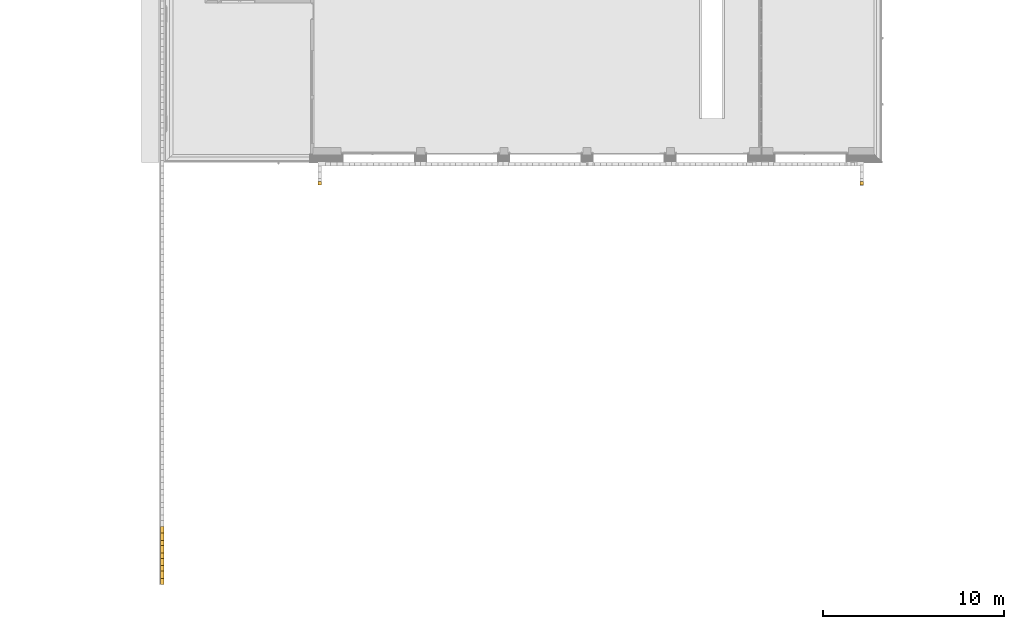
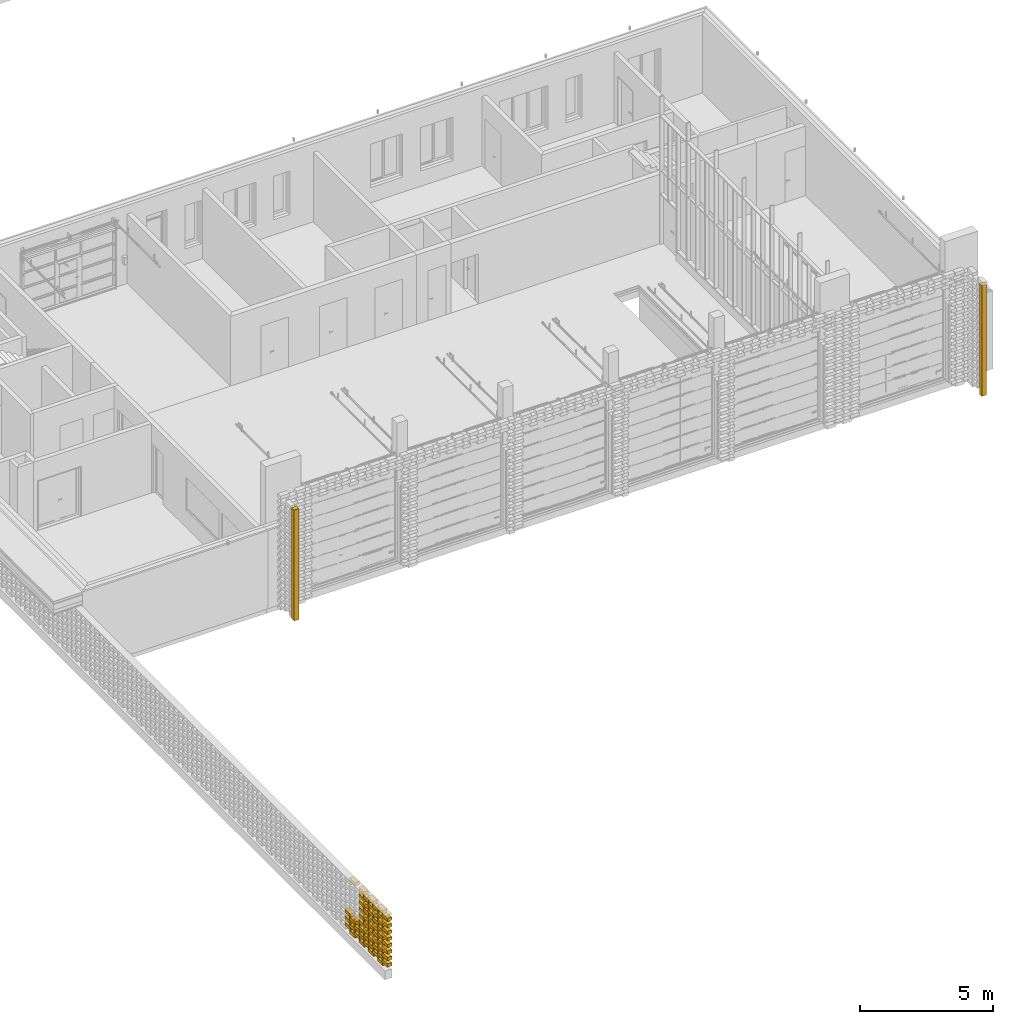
# One storey, part 38 of 62: 73 railings.
"""IFC2X3 building model written with IfcOpenShell, lengths in millimetres."""

import ifcopenshell
import ifcopenshell.guid

model = None  # the IFC model being written
_history = None  # IfcOwnerHistory: only IFC2X3 demands one
_inside = {}  # id of a spatial element -> (the spatial element, [elements in it])
_under = {}  # id of a project, library or spatial element -> (it, [spatial elements below it])
_declared = {}  # id of a project -> (the project, [libraries it declares])
_typed = {}  # id of a type object -> (the type object, [elements of that type])
_made_of = {}  # id of a material, layer set ... -> (it, [elements and type objects made of it])


def new_model(schema):
    """Start an empty IFC model of exactly this schema.

    Asked for "IFC4X3", IfcOpenShell would pick the latest addendum, in which some entities
    have other attributes; the version numbers below select the first issue.
    IFC2X3 requires an IfcOwnerHistory on every rooted entity: one is made here for all.
    """
    global model, _history
    if schema == "IFC4X3":
        model = ifcopenshell.file(schema_version=(4, 3, 0, 0))
    else:
        model = ifcopenshell.file(schema=schema)
    _inside.clear()
    _under.clear()
    _declared.clear()
    _typed.clear()
    _made_of.clear()
    _history = None
    if model.schema == "IFC2X3":
        org = make("IfcOrganization", Name="unknown")
        user = make(
            "IfcPersonAndOrganization",
            ThePerson=make("IfcPerson", FamilyName="unknown"),
            TheOrganization=org,
        )
        app = make(
            "IfcApplication",
            ApplicationDeveloper=org,
            Version="unknown",
            ApplicationFullName="unknown",
            ApplicationIdentifier="unknown",
        )
        _history = make(
            "IfcOwnerHistory",
            OwningUser=user,
            OwningApplication=app,
            ChangeAction="ADDED",
            CreationDate=0,
        )
    return model


def make(cls, **values):
    """One entity of the class cls with the attributes given. An attribute that is None is left unset."""
    return model.create_entity(
        cls, **{name: value for name, value in values.items() if value is not None}
    )


def entity(cls, *values):
    """Any entity or typed value of the class cls, its attributes in the order of the schema. None: left unset."""
    e = model.create_entity(cls)
    for i, value in enumerate(values):
        if value is not None:
            e[i] = value
    return e


def rooted(cls, **values):
    """An entity with a GlobalId (a new one), such as an element, a storey or a relation."""
    return make(cls, GlobalId=ifcopenshell.guid.new(), OwnerHistory=_history, **values)


def si_unit(unit_type, name, prefix=None):
    """IfcSIUnit, for example si_unit("LENGTHUNIT", "METRE", prefix="MILLI")."""
    return make("IfcSIUnit", UnitType=unit_type, Prefix=prefix, Name=name)


def converted_unit(unit_type, name, factor, base, dimensions=None, offset=None):
    """IfcConversionBasedUnit, such as the inch: factor (a typed value) times the base unit."""
    return make(
        "IfcConversionBasedUnit"
        if offset is None
        else "IfcConversionBasedUnitWithOffset",
        ConversionOffset=offset,
        Dimensions=None
        if dimensions is None
        else entity("IfcDimensionalExponents", *dimensions),
        UnitType=unit_type,
        Name=name,
        ConversionFactor=make(
            "IfcMeasureWithUnit", ValueComponent=factor, UnitComponent=base
        ),
    )


def derived_unit(unit_type, elements):
    """IfcDerivedUnit: a product of units, each with its exponent."""
    return make(
        "IfcDerivedUnit",
        Elements=[
            make("IfcDerivedUnitElement", Unit=unit, Exponent=power)
            for unit, power in elements
        ],
        UnitType=unit_type,
    )


def money_unit(currency):
    """IfcMonetaryUnit."""
    return make("IfcMonetaryUnit", Currency=currency)


def assignment(units):
    """IfcUnitAssignment: the units of a project."""
    return None if units is None else make("IfcUnitAssignment", Units=units)


def point(xyz):
    """IfcCartesianPoint."""
    return None if xyz is None else make("IfcCartesianPoint", Coordinates=xyz)


def direction(xyz):
    """IfcDirection."""
    return None if xyz is None else make("IfcDirection", DirectionRatios=xyz)


def frame(location, z_axis=None, x_axis=None):
    """IfcAxis2Placement3D, a coordinate frame: its origin and axes. An axis left out is left unset."""
    return make(
        "IfcAxis2Placement3D",
        Location=point(location),
        Axis=direction(z_axis),
        RefDirection=direction(x_axis),
    )


def origin_with_axes():
    """The frame at (0, 0, 0) with the z axis (0, 0, 1) and the x axis (1, 0, 0) written out."""
    return frame((0.0, 0.0, 0.0), z_axis=(0.0, 0.0, 1.0), x_axis=(1.0, 0.0, 0.0))


def place(relative_to, where):
    """IfcLocalPlacement: puts the frame where relative to a parent placement (None: the world)."""
    return make(
        "IfcLocalPlacement", PlacementRelTo=relative_to, RelativePlacement=where
    )


def context(
    kind, dimensions, precision=None, world=None, true_north=None, identifier=None
):
    """IfcGeometricRepresentationContext, for example the 3D "Model" context."""
    return make(
        "IfcGeometricRepresentationContext",
        ContextIdentifier=identifier,
        ContextType=kind,
        CoordinateSpaceDimension=dimensions,
        Precision=precision,
        WorldCoordinateSystem=world,
        TrueNorth=true_north,
    )


def subcontext(parent, identifier, kind, view, scale=None):
    """IfcGeometricRepresentationSubContext, for example "Body" below "Model"."""
    return make(
        "IfcGeometricRepresentationSubContext",
        ContextIdentifier=identifier,
        ContextType=kind,
        ParentContext=parent,
        TargetScale=scale,
        TargetView=view,
    )


def project(units=None, contexts=None):
    """IfcProject with its units and contexts."""
    return rooted(
        "IfcProject",
        Name="project",
        RepresentationContexts=contexts,
        UnitsInContext=assignment(units),
    )


def spatial(cls, under=None, at=None, **own):
    """A site, building, storey or space (cls), placed at a placement, below another one or the project."""
    s = rooted(cls, ObjectPlacement=at, **own)
    if under is not None:
        _under.setdefault(under.id(), (under, []))[1].append(s)
    return s


def polyline(points):
    """IfcPolyline through the points."""
    return make("IfcPolyline", Points=[point(p) for p in points])


def outline(outer, holes=None, kind="AREA"):
    """IfcArbitraryClosedProfileDef: a profile drawn as a closed curve; with holes, ...WithVoids."""
    if holes is None:
        return make("IfcArbitraryClosedProfileDef", ProfileType=kind, OuterCurve=outer)
    return make(
        "IfcArbitraryProfileDefWithVoids",
        ProfileType=kind,
        OuterCurve=outer,
        InnerCurves=holes,
    )


def extrude(swept, where, along, depth):
    """IfcExtrudedAreaSolid: the profile swept, set in the frame where, extruded along a direction by depth."""
    return make(
        "IfcExtrudedAreaSolid",
        SweptArea=swept,
        Position=where,
        ExtrudedDirection=direction(along),
        Depth=depth,
    )


def shape(context_of_items, identifier, shape_type, items):
    """IfcShapeRepresentation: the items that make up one representation, for example the "Body"."""
    return make(
        "IfcShapeRepresentation",
        ContextOfItems=context_of_items,
        RepresentationIdentifier=identifier,
        RepresentationType=shape_type,
        Items=items,
    )


def material(Name=None, Category=None):
    """IfcMaterial."""
    return make("IfcMaterial", Name=Name, Category=Category)


def made_of(thing, what):
    """Note that an element or type object is made of a material, layer set ...; save() writes the relation."""
    if what is not None:
        _made_of.setdefault(what.id(), (what, []))[1].append(thing)
    return thing


def type_object(cls, material=None, **own):
    """A type object (cls), such as IfcWallType, which elements share."""
    return made_of(rooted(cls, **own), material)


def element(
    cls,
    number,
    at=None,
    inside=None,
    cuts=None,
    type_object=None,
    material=None,
    context=None,
    identifier="Body",
    shape_type=None,
    held_by="IfcProductDefinitionShape",
    body=None,
    shapes=None,
    **own,
):
    """One element of the class cls, such as IfcWall. Its Tag is "e" and its number.

    at: its placement. inside: the storey or other place that contains it. cuts: it is an
    opening in that element (IfcRelVoidsElement). A single representation is given by context,
    identifier, shape_type and body (its items); several are given by shapes. held_by: the class
    of the entity that holds the representations. save() writes the other relations.
    """
    e = rooted(cls, Tag="e%d" % number, ObjectPlacement=at, **own)
    if body is not None:
        shapes = [shape(context, identifier, shape_type, body)]
    if shapes is not None:
        e.Representation = make(held_by, Representations=shapes)
    if inside is not None:
        _inside.setdefault(inside.id(), (inside, []))[1].append(e)
    if cuts is not None:
        rooted(
            "IfcRelVoidsElement", RelatingBuildingElement=cuts, RelatedOpeningElement=e
        )
    if type_object is not None:
        _typed.setdefault(type_object.id(), (type_object, []))[1].append(e)
    return made_of(e, material)


def aggregate(whole, parts):
    """IfcRelAggregates: a whole, such as a stair, and the parts it consists of."""
    return rooted("IfcRelAggregates", RelatingObject=whole, RelatedObjects=parts)


def save(model, path):
    """Write the relations noted so far, then the file.

    IfcRelAggregates (storeys below a building ...), IfcRelContainedInSpatialStructure (elements
    in a storey), IfcRelDefinesByType, IfcRelAssociatesMaterial and IfcRelDeclares: one each for
    every whole, place, type object, material and project.
    """
    for whole, parts in _under.values():
        aggregate(whole, parts)
    for where, things in _inside.values():
        rooted(
            "IfcRelContainedInSpatialStructure",
            RelatedElements=things,
            RelatingStructure=where,
        )
    for kind, things in _typed.values():
        rooted("IfcRelDefinesByType", RelatedObjects=things, RelatingType=kind)
    for what, things in _made_of.values():
        rooted("IfcRelAssociatesMaterial", RelatedObjects=things, RelatingMaterial=what)
    for by, libraries in _declared.values():
        rooted("IfcRelDeclares", RelatingContext=by, RelatedDefinitions=libraries)
    model.write(path)


model = new_model("IFC2X3")

# Units and contexts
model_context = context("Model", 3, precision=0.01, world=origin_with_axes(), true_north=direction((0.0, 1.0)))
body_context = subcontext(model_context, "Body", "Model", "MODEL_VIEW")
ifc_project = project(units=[si_unit("LENGTHUNIT", "METRE", prefix="MILLI"), si_unit("AREAUNIT", "SQUARE_METRE"), si_unit("VOLUMEUNIT", "CUBIC_METRE"), converted_unit("PLANEANGLEUNIT", "DEGREE", entity("IfcPlaneAngleMeasure", 0.0174532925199), si_unit("PLANEANGLEUNIT", "RADIAN"), dimensions=[0, 0, 0, 0, 0, 0, 0]), si_unit("SOLIDANGLEUNIT", "STERADIAN"), money_unit("EUR"), converted_unit("TIMEUNIT", "Year", entity("IfcTimeMeasure", 31556926.0), si_unit("TIMEUNIT", "SECOND"), dimensions=[0, 0, 1, 0, 0, 0, 0]), si_unit("MASSUNIT", "GRAM", prefix="KILO"), si_unit("THERMODYNAMICTEMPERATUREUNIT", "DEGREE_CELSIUS"), si_unit("LUMINOUSINTENSITYUNIT", "LUMEN"), si_unit("ENERGYUNIT", "JOULE", prefix="MEGA"), derived_unit("THERMALCONDUCTANCEUNIT", [(si_unit("POWERUNIT", "WATT"), 1), (si_unit("LENGTHUNIT", "METRE"), -1), (si_unit("THERMODYNAMICTEMPERATUREUNIT", "KELVIN"), -1)]), derived_unit("SPECIFICHEATCAPACITYUNIT", [(si_unit("ENERGYUNIT", "JOULE"), 1), (si_unit("MASSUNIT", "GRAM", prefix="KILO"), -1), (si_unit("THERMODYNAMICTEMPERATUREUNIT", "KELVIN"), -1)]), derived_unit("MASSDENSITYUNIT", [(si_unit("MASSUNIT", "GRAM", prefix="KILO"), 1), (si_unit("VOLUMEUNIT", "CUBIC_METRE"), -1)])], contexts=[model_context])

# Site, building, storey
site_placement = place(None, origin_with_axes())
site = spatial("IfcSite", under=ifc_project, at=site_placement, Name="KIRDE 14, ELVA", CompositionType="ELEMENT")
building_placement = place(site_placement, origin_with_axes())
building = spatial("IfcBuilding", under=site, at=building_placement, Name="PPA ja Päästeameti ühishoone", CompositionType="ELEMENT")
storey_placement = place(building_placement, origin_with_axes())
storey = spatial("IfcBuildingStorey", under=building, at=storey_placement, Name="Esimene korrus", CompositionType="ELEMENT", Elevation=0.0)

# Railings
ifc_material = material(Name="Air Space")
railing_type = type_object("IfcRailingType", Name="Air Space 200", PredefinedType="NOTDEFINED")
railing_1_placement = place(storey_placement, frame((9322.96810084, -1481.59629555, 50.0), z_axis=(0.0, 0.0, 1.0), x_axis=(-1.16763387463e-09, -1.0, 0.0)))
element("IfcRailing", 1, at=railing_1_placement, inside=storey, type_object=railing_type, material=ifc_material, Name="plokk", PredefinedType="NOTDEFINED", context=body_context, shape_type="SweptSolid", body=[
    extrude(outline(polyline([(0.0, 0.0), (199.403810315, 0.0), (199.403810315, 200.0), (0.0, 200.0), (0.0, 0.0)])), origin_with_axes(), (0.0, 0.0, 1.0), 5100.0),
])
railing_2_placement = place(storey_placement, frame((620.000153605, -23023.8398414, 2800.0), z_axis=(0.0, 0.0, 1.0), x_axis=(-4.36557457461e-10, -1.0, 0.0)))
element("IfcRailing", 2, at=railing_2_placement, inside=storey, type_object=railing_type, material=ifc_material, Name="plokk", PredefinedType="NOTDEFINED", context=body_context, shape_type="SweptSolid", body=[
    extrude(outline(polyline([(0.0, 0.0), (399.999999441, 0.0), (399.999999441, 200.0), (0.0, 200.0), (0.0, 0.0)])), origin_with_axes(), (0.0, 0.0, 1.0), 145.0),
])
railing_3_placement = place(storey_placement, frame((620.000154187, -22323.8398403, 2800.0), z_axis=(0.0, 0.0, 1.0), x_axis=(-2.91038304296e-10, -1.0, 0.0)))
element("IfcRailing", 3, at=railing_3_placement, inside=storey, type_object=railing_type, material=ifc_material, Name="plokk", PredefinedType="NOTDEFINED", context=body_context, shape_type="SweptSolid", body=[
    extrude(outline(polyline([(0.0, 0.0), (400.000000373, 0.0), (400.000000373, 200.0), (0.0, 200.0), (0.0, 0.0)])), origin_with_axes(), (0.0, 0.0, 1.0), 145.0),
])
railing_4_placement = place(storey_placement, frame((39472.9681011, -1481.00009823, -100.0), z_axis=(0.0, 0.0, 1.0), x_axis=(1.16415321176e-09, -1.0, 0.0)))
element("IfcRailing", 4, at=railing_4_placement, inside=storey, type_object=railing_type, material=ifc_material, Name="plokk", PredefinedType="NOTDEFINED", context=body_context, shape_type="SweptSolid", body=[
    extrude(outline(polyline([(0.0, -200.0), (200.00000103, -200.0), (200.000001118, 0.0), (0.0, 0.0), (0.0, -200.0)])), origin_with_axes(), (0.0, 0.0, 1.0), 5100.0),
])
railing_5_placement = place(storey_placement, frame((620.000153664, -20923.8398409, 2800.0), z_axis=(0.0, 0.0, 1.0), x_axis=(7.27595762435e-10, -1.0, 0.0)))
element("IfcRailing", 5, at=railing_5_placement, inside=storey, type_object=railing_type, material=ifc_material, Name="plokk", PredefinedType="NOTDEFINED", context=body_context, shape_type="SweptSolid", body=[
    extrude(outline(polyline([(0.0, 0.0), (399.999999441, 0.0), (399.999999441, 200.0), (0.0, 200.0), (0.0, 0.0)])), origin_with_axes(), (0.0, 0.0, 1.0), 145.0),
])
railing_6_placement = place(storey_placement, frame((620.000153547, -21623.839842, 2800.0), z_axis=(0.0, 0.0, 1.0), x_axis=(7.27595764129e-10, -1.0, 0.0)))
element("IfcRailing", 6, at=railing_6_placement, inside=storey, type_object=railing_type, material=ifc_material, Name="plokk", PredefinedType="NOTDEFINED", context=body_context, shape_type="SweptSolid", body=[
    extrude(outline(polyline([(0.0, 0.0), (399.99999851, 0.0), (399.99999851, 200.0), (0.0, 200.0), (0.0, 0.0)])), origin_with_axes(), (0.0, 0.0, 1.0), 145.0),
])
railing_7_placement = place(storey_placement, frame((620.000153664, -20923.8398409, 400.0), z_axis=(0.0, 0.0, 1.0), x_axis=(7.27595762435e-10, -1.0, 0.0)))
element("IfcRailing", 7, at=railing_7_placement, inside=storey, type_object=railing_type, material=ifc_material, Name="plokk", PredefinedType="NOTDEFINED", context=body_context, shape_type="SweptSolid", body=[
    extrude(outline(polyline([(0.0, 0.0), (399.999999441, 0.0), (399.999999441, 200.0), (0.0, 200.0), (0.0, 0.0)])), origin_with_axes(), (0.0, 0.0, 1.0), 145.0),
])
railing_8_placement = place(storey_placement, frame((620.000153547, -21623.839842, 400.0), z_axis=(0.0, 0.0, 1.0), x_axis=(7.27595764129e-10, -1.0, 0.0)))
element("IfcRailing", 8, at=railing_8_placement, inside=storey, type_object=railing_type, material=ifc_material, Name="plokk", PredefinedType="NOTDEFINED", context=body_context, shape_type="SweptSolid", body=[
    extrude(outline(polyline([(0.0, 0.0), (399.99999851, 0.0), (399.99999851, 200.0), (0.0, 200.0), (0.0, 0.0)])), origin_with_axes(), (0.0, 0.0, 1.0), 145.0),
])
railing_9_placement = place(storey_placement, frame((620.000154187, -22323.8398403, 400.0), z_axis=(0.0, 0.0, 1.0), x_axis=(-2.91038304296e-10, -1.0, 0.0)))
element("IfcRailing", 9, at=railing_9_placement, inside=storey, type_object=railing_type, material=ifc_material, Name="plokk", PredefinedType="NOTDEFINED", context=body_context, shape_type="SweptSolid", body=[
    extrude(outline(polyline([(0.0, 0.0), (400.000000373, 0.0), (400.000000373, 200.0), (0.0, 200.0), (0.0, 0.0)])), origin_with_axes(), (0.0, 0.0, 1.0), 145.0),
])
railing_10_placement = place(storey_placement, frame((620.000153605, -23023.8398414, 400.0), z_axis=(0.0, 0.0, 1.0), x_axis=(-4.36557457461e-10, -1.0, 0.0)))
element("IfcRailing", 10, at=railing_10_placement, inside=storey, type_object=railing_type, material=ifc_material, Name="plokk", PredefinedType="NOTDEFINED", context=body_context, shape_type="SweptSolid", body=[
    extrude(outline(polyline([(0.0, 0.0), (399.999999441, 0.0), (399.999999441, 200.0), (0.0, 200.0), (0.0, 0.0)])), origin_with_axes(), (0.0, 0.0, 1.0), 145.0),
])
railing_11_placement = place(storey_placement, frame((620.000153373, -20573.8398403, 550.0), z_axis=(0.0, 0.0, 1.0), x_axis=(-2.91038304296e-10, -1.0, 0.0)))
element("IfcRailing", 11, at=railing_11_placement, inside=storey, type_object=railing_type, material=ifc_material, Name="plokk", PredefinedType="NOTDEFINED", context=body_context, shape_type="SweptSolid", body=[
    extrude(outline(polyline([(0.0, 0.0), (400.000000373, 0.0), (400.000000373, 200.0), (0.0, 200.0), (0.0, 0.0)])), origin_with_axes(), (0.0, 0.0, 1.0), 145.0),
])
railing_12_placement = place(storey_placement, frame((620.00015279, -21273.8398414, 550.0), z_axis=(0.0, 0.0, 1.0), x_axis=(2.03726813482e-09, -1.0, 0.0)))
element("IfcRailing", 12, at=railing_12_placement, inside=storey, type_object=railing_type, material=ifc_material, Name="plokk", PredefinedType="NOTDEFINED", context=body_context, shape_type="SweptSolid", body=[
    extrude(outline(polyline([(0.0, 0.0), (399.999999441, 0.0), (399.999999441, 200.0), (0.0, 200.0), (0.0, 0.0)])), origin_with_axes(), (0.0, 0.0, 1.0), 145.0),
])
for number, where, z_axis, x_axis in (
    (13, (620.000153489, -21973.8398398, 550.0), (0.0, 0.0, 1.0), (1.30967236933e-09, -1.0, 0.0)),
    (14, (620.000153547, -22673.8398399, 550.0), (0.0, 0.0, 1.0), (1.45519152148e-09, -1.0, 0.0)),
):
    element("IfcRailing", number, at=place(storey_placement, frame(where, z_axis=z_axis, x_axis=x_axis)), inside=storey, type_object=railing_type, material=ifc_material, Name="plokk", PredefinedType="NOTDEFINED", context=body_context, shape_type="SweptSolid", body=[
        extrude(outline(polyline([(0.0, 0.0), (400.000000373, 0.0), (400.000000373, 200.0), (0.0, 200.0), (0.0, 0.0)])), origin_with_axes(), (0.0, 0.0, 1.0), 145.0),
    ])
railing_13_placement = place(storey_placement, frame((620.000153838, -23373.8398411, 550.0), z_axis=(0.0, 0.0, 1.0), x_axis=(-4.36557458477e-10, -1.0, 0.0)))
element("IfcRailing", 15, at=railing_13_placement, inside=storey, type_object=railing_type, material=ifc_material, Name="plokk", PredefinedType="NOTDEFINED", context=body_context, shape_type="SweptSolid", body=[
    extrude(outline(polyline([(0.0, 0.0), (399.99999851, 0.0), (399.99999851, 200.0), (0.0, 200.0), (0.0, 0.0)])), origin_with_axes(), (0.0, 0.0, 1.0), 145.0),
])
railing_14_placement = place(storey_placement, frame((620.000153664, -20923.8398409, 700.0), z_axis=(0.0, 0.0, 1.0), x_axis=(7.27595762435e-10, -1.0, 0.0)))
element("IfcRailing", 16, at=railing_14_placement, inside=storey, type_object=railing_type, material=ifc_material, Name="plokk", PredefinedType="NOTDEFINED", context=body_context, shape_type="SweptSolid", body=[
    extrude(outline(polyline([(0.0, 0.0), (399.999999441, 0.0), (399.999999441, 200.0), (0.0, 200.0), (0.0, 0.0)])), origin_with_axes(), (0.0, 0.0, 1.0), 145.0),
])
railing_15_placement = place(storey_placement, frame((620.000153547, -21623.839842, 700.0), z_axis=(0.0, 0.0, 1.0), x_axis=(7.27595764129e-10, -1.0, 0.0)))
element("IfcRailing", 17, at=railing_15_placement, inside=storey, type_object=railing_type, material=ifc_material, Name="plokk", PredefinedType="NOTDEFINED", context=body_context, shape_type="SweptSolid", body=[
    extrude(outline(polyline([(0.0, 0.0), (399.99999851, 0.0), (399.99999851, 200.0), (0.0, 200.0), (0.0, 0.0)])), origin_with_axes(), (0.0, 0.0, 1.0), 145.0),
])
railing_16_placement = place(storey_placement, frame((620.000154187, -22323.8398403, 700.0), z_axis=(0.0, 0.0, 1.0), x_axis=(-2.91038304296e-10, -1.0, 0.0)))
element("IfcRailing", 18, at=railing_16_placement, inside=storey, type_object=railing_type, material=ifc_material, Name="plokk", PredefinedType="NOTDEFINED", context=body_context, shape_type="SweptSolid", body=[
    extrude(outline(polyline([(0.0, 0.0), (400.000000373, 0.0), (400.000000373, 200.0), (0.0, 200.0), (0.0, 0.0)])), origin_with_axes(), (0.0, 0.0, 1.0), 145.0),
])
railing_17_placement = place(storey_placement, frame((620.000153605, -23023.8398414, 700.0), z_axis=(0.0, 0.0, 1.0), x_axis=(-4.36557457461e-10, -1.0, 0.0)))
element("IfcRailing", 19, at=railing_17_placement, inside=storey, type_object=railing_type, material=ifc_material, Name="plokk", PredefinedType="NOTDEFINED", context=body_context, shape_type="SweptSolid", body=[
    extrude(outline(polyline([(0.0, 0.0), (399.999999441, 0.0), (399.999999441, 200.0), (0.0, 200.0), (0.0, 0.0)])), origin_with_axes(), (0.0, 0.0, 1.0), 145.0),
])
railing_18_placement = place(storey_placement, frame((620.000153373, -20573.8398403, 850.0), z_axis=(0.0, 0.0, 1.0), x_axis=(-2.91038304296e-10, -1.0, 0.0)))
element("IfcRailing", 20, at=railing_18_placement, inside=storey, type_object=railing_type, material=ifc_material, Name="plokk", PredefinedType="NOTDEFINED", context=body_context, shape_type="SweptSolid", body=[
    extrude(outline(polyline([(0.0, 0.0), (400.000000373, 0.0), (400.000000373, 200.0), (0.0, 200.0), (0.0, 0.0)])), origin_with_axes(), (0.0, 0.0, 1.0), 145.0),
])
railing_19_placement = place(storey_placement, frame((620.00015279, -21273.8398414, 850.0), z_axis=(0.0, 0.0, 1.0), x_axis=(2.03726813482e-09, -1.0, 0.0)))
element("IfcRailing", 21, at=railing_19_placement, inside=storey, type_object=railing_type, material=ifc_material, Name="plokk", PredefinedType="NOTDEFINED", context=body_context, shape_type="SweptSolid", body=[
    extrude(outline(polyline([(0.0, 0.0), (399.999999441, 0.0), (399.999999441, 200.0), (0.0, 200.0), (0.0, 0.0)])), origin_with_axes(), (0.0, 0.0, 1.0), 145.0),
])
for number, where, z_axis, x_axis in (
    (22, (620.000153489, -21973.8398398, 850.0), (0.0, 0.0, 1.0), (1.30967236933e-09, -1.0, 0.0)),
    (23, (620.000153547, -22673.8398399, 850.0), (0.0, 0.0, 1.0), (1.45519152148e-09, -1.0, 0.0)),
):
    element("IfcRailing", number, at=place(storey_placement, frame(where, z_axis=z_axis, x_axis=x_axis)), inside=storey, type_object=railing_type, material=ifc_material, Name="plokk", PredefinedType="NOTDEFINED", context=body_context, shape_type="SweptSolid", body=[
        extrude(outline(polyline([(0.0, 0.0), (400.000000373, 0.0), (400.000000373, 200.0), (0.0, 200.0), (0.0, 0.0)])), origin_with_axes(), (0.0, 0.0, 1.0), 145.0),
    ])
railing_20_placement = place(storey_placement, frame((620.000153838, -23373.8398411, 850.0), z_axis=(0.0, 0.0, 1.0), x_axis=(-4.36557458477e-10, -1.0, 0.0)))
element("IfcRailing", 24, at=railing_20_placement, inside=storey, type_object=railing_type, material=ifc_material, Name="plokk", PredefinedType="NOTDEFINED", context=body_context, shape_type="SweptSolid", body=[
    extrude(outline(polyline([(0.0, 0.0), (399.99999851, 0.0), (399.99999851, 200.0), (0.0, 200.0), (0.0, 0.0)])), origin_with_axes(), (0.0, 0.0, 1.0), 145.0),
])
railing_21_placement = place(storey_placement, frame((620.000153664, -20923.8398409, 1000.0), z_axis=(0.0, 0.0, 1.0), x_axis=(7.27595762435e-10, -1.0, 0.0)))
element("IfcRailing", 25, at=railing_21_placement, inside=storey, type_object=railing_type, material=ifc_material, Name="plokk", PredefinedType="NOTDEFINED", context=body_context, shape_type="SweptSolid", body=[
    extrude(outline(polyline([(0.0, 0.0), (399.999999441, 0.0), (399.999999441, 200.0), (0.0, 200.0), (0.0, 0.0)])), origin_with_axes(), (0.0, 0.0, 1.0), 145.0),
])
railing_22_placement = place(storey_placement, frame((620.000153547, -21623.839842, 1000.0), z_axis=(0.0, 0.0, 1.0), x_axis=(7.27595764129e-10, -1.0, 0.0)))
element("IfcRailing", 26, at=railing_22_placement, inside=storey, type_object=railing_type, material=ifc_material, Name="plokk", PredefinedType="NOTDEFINED", context=body_context, shape_type="SweptSolid", body=[
    extrude(outline(polyline([(0.0, 0.0), (399.99999851, 0.0), (399.99999851, 200.0), (0.0, 200.0), (0.0, 0.0)])), origin_with_axes(), (0.0, 0.0, 1.0), 145.0),
])
railing_23_placement = place(storey_placement, frame((620.000154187, -22323.8398403, 1000.0), z_axis=(0.0, 0.0, 1.0), x_axis=(-2.91038304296e-10, -1.0, 0.0)))
element("IfcRailing", 27, at=railing_23_placement, inside=storey, type_object=railing_type, material=ifc_material, Name="plokk", PredefinedType="NOTDEFINED", context=body_context, shape_type="SweptSolid", body=[
    extrude(outline(polyline([(0.0, 0.0), (400.000000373, 0.0), (400.000000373, 200.0), (0.0, 200.0), (0.0, 0.0)])), origin_with_axes(), (0.0, 0.0, 1.0), 145.0),
])
for number, where, z_axis, x_axis in (
    (28, (620.000153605, -23023.8398414, 1000.0), (0.0, 0.0, 1.0), (-4.36557457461e-10, -1.0, 0.0)),
    (29, (620.000153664, -20923.8398409, 1000.0), (0.0, 0.0, 1.0), (7.27595762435e-10, -1.0, 0.0)),
):
    element("IfcRailing", number, at=place(storey_placement, frame(where, z_axis=z_axis, x_axis=x_axis)), inside=storey, type_object=railing_type, material=ifc_material, Name="plokk", PredefinedType="NOTDEFINED", context=body_context, shape_type="SweptSolid", body=[
        extrude(outline(polyline([(0.0, 0.0), (399.999999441, 0.0), (399.999999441, 200.0), (0.0, 200.0), (0.0, 0.0)])), origin_with_axes(), (0.0, 0.0, 1.0), 145.0),
    ])
railing_24_placement = place(storey_placement, frame((620.000153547, -21623.839842, 1000.0), z_axis=(0.0, 0.0, 1.0), x_axis=(7.27595764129e-10, -1.0, 0.0)))
element("IfcRailing", 30, at=railing_24_placement, inside=storey, type_object=railing_type, material=ifc_material, Name="plokk", PredefinedType="NOTDEFINED", context=body_context, shape_type="SweptSolid", body=[
    extrude(outline(polyline([(0.0, 0.0), (399.99999851, 0.0), (399.99999851, 200.0), (0.0, 200.0), (0.0, 0.0)])), origin_with_axes(), (0.0, 0.0, 1.0), 145.0),
])
railing_25_placement = place(storey_placement, frame((620.000154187, -22323.8398403, 1000.0), z_axis=(0.0, 0.0, 1.0), x_axis=(-2.91038304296e-10, -1.0, 0.0)))
element("IfcRailing", 31, at=railing_25_placement, inside=storey, type_object=railing_type, material=ifc_material, Name="plokk", PredefinedType="NOTDEFINED", context=body_context, shape_type="SweptSolid", body=[
    extrude(outline(polyline([(0.0, 0.0), (400.000000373, 0.0), (400.000000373, 200.0), (0.0, 200.0), (0.0, 0.0)])), origin_with_axes(), (0.0, 0.0, 1.0), 145.0),
])
railing_26_placement = place(storey_placement, frame((620.000153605, -23023.8398414, 1000.0), z_axis=(0.0, 0.0, 1.0), x_axis=(-4.36557457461e-10, -1.0, 0.0)))
element("IfcRailing", 32, at=railing_26_placement, inside=storey, type_object=railing_type, material=ifc_material, Name="plokk", PredefinedType="NOTDEFINED", context=body_context, shape_type="SweptSolid", body=[
    extrude(outline(polyline([(0.0, 0.0), (399.999999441, 0.0), (399.999999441, 200.0), (0.0, 200.0), (0.0, 0.0)])), origin_with_axes(), (0.0, 0.0, 1.0), 145.0),
])
railing_27_placement = place(storey_placement, frame((620.000153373, -20573.8398403, 1150.0), z_axis=(0.0, 0.0, 1.0), x_axis=(-2.91038304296e-10, -1.0, 0.0)))
element("IfcRailing", 33, at=railing_27_placement, inside=storey, type_object=railing_type, material=ifc_material, Name="plokk", PredefinedType="NOTDEFINED", context=body_context, shape_type="SweptSolid", body=[
    extrude(outline(polyline([(0.0, 0.0), (400.000000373, 0.0), (400.000000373, 200.0), (0.0, 200.0), (0.0, 0.0)])), origin_with_axes(), (0.0, 0.0, 1.0), 145.0),
])
railing_28_placement = place(storey_placement, frame((620.00015279, -21273.8398414, 1150.0), z_axis=(0.0, 0.0, 1.0), x_axis=(2.03726813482e-09, -1.0, 0.0)))
element("IfcRailing", 34, at=railing_28_placement, inside=storey, type_object=railing_type, material=ifc_material, Name="plokk", PredefinedType="NOTDEFINED", context=body_context, shape_type="SweptSolid", body=[
    extrude(outline(polyline([(0.0, 0.0), (399.999999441, 0.0), (399.999999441, 200.0), (0.0, 200.0), (0.0, 0.0)])), origin_with_axes(), (0.0, 0.0, 1.0), 145.0),
])
for number, where, z_axis, x_axis in (
    (35, (620.000153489, -21973.8398398, 1150.0), (0.0, 0.0, 1.0), (1.30967236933e-09, -1.0, 0.0)),
    (36, (620.000153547, -22673.8398399, 1150.0), (0.0, 0.0, 1.0), (1.45519152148e-09, -1.0, 0.0)),
):
    element("IfcRailing", number, at=place(storey_placement, frame(where, z_axis=z_axis, x_axis=x_axis)), inside=storey, type_object=railing_type, material=ifc_material, Name="plokk", PredefinedType="NOTDEFINED", context=body_context, shape_type="SweptSolid", body=[
        extrude(outline(polyline([(0.0, 0.0), (400.000000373, 0.0), (400.000000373, 200.0), (0.0, 200.0), (0.0, 0.0)])), origin_with_axes(), (0.0, 0.0, 1.0), 145.0),
    ])
for number, where, z_axis, x_axis in (
    (37, (620.000153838, -23373.8398411, 1150.0), (0.0, 0.0, 1.0), (-4.36557458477e-10, -1.0, 0.0)),
    (38, (620.000153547, -21623.839842, 1300.0), (0.0, 0.0, 1.0), (7.27595764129e-10, -1.0, 0.0)),
):
    element("IfcRailing", number, at=place(storey_placement, frame(where, z_axis=z_axis, x_axis=x_axis)), inside=storey, type_object=railing_type, material=ifc_material, Name="plokk", PredefinedType="NOTDEFINED", context=body_context, shape_type="SweptSolid", body=[
        extrude(outline(polyline([(0.0, 0.0), (399.99999851, 0.0), (399.99999851, 200.0), (0.0, 200.0), (0.0, 0.0)])), origin_with_axes(), (0.0, 0.0, 1.0), 145.0),
    ])
railing_29_placement = place(storey_placement, frame((620.000154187, -22323.8398403, 1300.0), z_axis=(0.0, 0.0, 1.0), x_axis=(-2.91038304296e-10, -1.0, 0.0)))
element("IfcRailing", 39, at=railing_29_placement, inside=storey, type_object=railing_type, material=ifc_material, Name="plokk", PredefinedType="NOTDEFINED", context=body_context, shape_type="SweptSolid", body=[
    extrude(outline(polyline([(0.0, 0.0), (400.000000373, 0.0), (400.000000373, 200.0), (0.0, 200.0), (0.0, 0.0)])), origin_with_axes(), (0.0, 0.0, 1.0), 145.0),
])
railing_30_placement = place(storey_placement, frame((620.000153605, -23023.8398414, 1300.0), z_axis=(0.0, 0.0, 1.0), x_axis=(-4.36557457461e-10, -1.0, 0.0)))
element("IfcRailing", 40, at=railing_30_placement, inside=storey, type_object=railing_type, material=ifc_material, Name="plokk", PredefinedType="NOTDEFINED", context=body_context, shape_type="SweptSolid", body=[
    extrude(outline(polyline([(0.0, 0.0), (399.999999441, 0.0), (399.999999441, 200.0), (0.0, 200.0), (0.0, 0.0)])), origin_with_axes(), (0.0, 0.0, 1.0), 145.0),
])
for number, where, z_axis, x_axis in (
    (41, (620.000153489, -21973.8398398, 1450.0), (0.0, 0.0, 1.0), (1.30967236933e-09, -1.0, 0.0)),
    (42, (620.000153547, -22673.8398399, 1450.0), (0.0, 0.0, 1.0), (1.45519152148e-09, -1.0, 0.0)),
):
    element("IfcRailing", number, at=place(storey_placement, frame(where, z_axis=z_axis, x_axis=x_axis)), inside=storey, type_object=railing_type, material=ifc_material, Name="plokk", PredefinedType="NOTDEFINED", context=body_context, shape_type="SweptSolid", body=[
        extrude(outline(polyline([(0.0, 0.0), (400.000000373, 0.0), (400.000000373, 200.0), (0.0, 200.0), (0.0, 0.0)])), origin_with_axes(), (0.0, 0.0, 1.0), 145.0),
    ])
for number, where, z_axis, x_axis in (
    (43, (620.000153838, -23373.8398411, 1450.0), (0.0, 0.0, 1.0), (-4.36557458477e-10, -1.0, 0.0)),
    (44, (620.000153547, -21623.839842, 1600.0), (0.0, 0.0, 1.0), (7.27595764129e-10, -1.0, 0.0)),
):
    element("IfcRailing", number, at=place(storey_placement, frame(where, z_axis=z_axis, x_axis=x_axis)), inside=storey, type_object=railing_type, material=ifc_material, Name="plokk", PredefinedType="NOTDEFINED", context=body_context, shape_type="SweptSolid", body=[
        extrude(outline(polyline([(0.0, 0.0), (399.99999851, 0.0), (399.99999851, 200.0), (0.0, 200.0), (0.0, 0.0)])), origin_with_axes(), (0.0, 0.0, 1.0), 145.0),
    ])
railing_31_placement = place(storey_placement, frame((620.000154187, -22323.8398403, 1600.0), z_axis=(0.0, 0.0, 1.0), x_axis=(-2.91038304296e-10, -1.0, 0.0)))
element("IfcRailing", 45, at=railing_31_placement, inside=storey, type_object=railing_type, material=ifc_material, Name="plokk", PredefinedType="NOTDEFINED", context=body_context, shape_type="SweptSolid", body=[
    extrude(outline(polyline([(0.0, 0.0), (400.000000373, 0.0), (400.000000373, 200.0), (0.0, 200.0), (0.0, 0.0)])), origin_with_axes(), (0.0, 0.0, 1.0), 145.0),
])
railing_32_placement = place(storey_placement, frame((620.000153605, -23023.8398414, 1600.0), z_axis=(0.0, 0.0, 1.0), x_axis=(-4.36557457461e-10, -1.0, 0.0)))
element("IfcRailing", 46, at=railing_32_placement, inside=storey, type_object=railing_type, material=ifc_material, Name="plokk", PredefinedType="NOTDEFINED", context=body_context, shape_type="SweptSolid", body=[
    extrude(outline(polyline([(0.0, 0.0), (399.999999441, 0.0), (399.999999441, 200.0), (0.0, 200.0), (0.0, 0.0)])), origin_with_axes(), (0.0, 0.0, 1.0), 145.0),
])
railing_33_placement = place(storey_placement, frame((620.000153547, -21623.839842, 1600.0), z_axis=(0.0, 0.0, 1.0), x_axis=(7.27595764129e-10, -1.0, 0.0)))
element("IfcRailing", 47, at=railing_33_placement, inside=storey, type_object=railing_type, material=ifc_material, Name="plokk", PredefinedType="NOTDEFINED", context=body_context, shape_type="SweptSolid", body=[
    extrude(outline(polyline([(0.0, 0.0), (399.99999851, 0.0), (399.99999851, 200.0), (0.0, 200.0), (0.0, 0.0)])), origin_with_axes(), (0.0, 0.0, 1.0), 145.0),
])
railing_34_placement = place(storey_placement, frame((620.000154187, -22323.8398403, 1600.0), z_axis=(0.0, 0.0, 1.0), x_axis=(-2.91038304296e-10, -1.0, 0.0)))
element("IfcRailing", 48, at=railing_34_placement, inside=storey, type_object=railing_type, material=ifc_material, Name="plokk", PredefinedType="NOTDEFINED", context=body_context, shape_type="SweptSolid", body=[
    extrude(outline(polyline([(0.0, 0.0), (400.000000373, 0.0), (400.000000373, 200.0), (0.0, 200.0), (0.0, 0.0)])), origin_with_axes(), (0.0, 0.0, 1.0), 145.0),
])
railing_35_placement = place(storey_placement, frame((620.000153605, -23023.8398414, 1600.0), z_axis=(0.0, 0.0, 1.0), x_axis=(-4.36557457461e-10, -1.0, 0.0)))
element("IfcRailing", 49, at=railing_35_placement, inside=storey, type_object=railing_type, material=ifc_material, Name="plokk", PredefinedType="NOTDEFINED", context=body_context, shape_type="SweptSolid", body=[
    extrude(outline(polyline([(0.0, 0.0), (399.999999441, 0.0), (399.999999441, 200.0), (0.0, 200.0), (0.0, 0.0)])), origin_with_axes(), (0.0, 0.0, 1.0), 145.0),
])
for number, where, z_axis, x_axis in (
    (50, (620.000153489, -21973.8398398, 1750.0), (0.0, 0.0, 1.0), (1.30967236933e-09, -1.0, 0.0)),
    (51, (620.000153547, -22673.8398399, 1750.0), (0.0, 0.0, 1.0), (1.45519152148e-09, -1.0, 0.0)),
):
    element("IfcRailing", number, at=place(storey_placement, frame(where, z_axis=z_axis, x_axis=x_axis)), inside=storey, type_object=railing_type, material=ifc_material, Name="plokk", PredefinedType="NOTDEFINED", context=body_context, shape_type="SweptSolid", body=[
        extrude(outline(polyline([(0.0, 0.0), (400.000000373, 0.0), (400.000000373, 200.0), (0.0, 200.0), (0.0, 0.0)])), origin_with_axes(), (0.0, 0.0, 1.0), 145.0),
    ])
for number, where, z_axis, x_axis in (
    (52, (620.000153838, -23373.8398411, 1750.0), (0.0, 0.0, 1.0), (-4.36557458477e-10, -1.0, 0.0)),
    (53, (620.000153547, -21623.839842, 1900.0), (0.0, 0.0, 1.0), (7.27595764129e-10, -1.0, 0.0)),
):
    element("IfcRailing", number, at=place(storey_placement, frame(where, z_axis=z_axis, x_axis=x_axis)), inside=storey, type_object=railing_type, material=ifc_material, Name="plokk", PredefinedType="NOTDEFINED", context=body_context, shape_type="SweptSolid", body=[
        extrude(outline(polyline([(0.0, 0.0), (399.99999851, 0.0), (399.99999851, 200.0), (0.0, 200.0), (0.0, 0.0)])), origin_with_axes(), (0.0, 0.0, 1.0), 145.0),
    ])
railing_36_placement = place(storey_placement, frame((620.000154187, -22323.8398403, 1900.0), z_axis=(0.0, 0.0, 1.0), x_axis=(-2.91038304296e-10, -1.0, 0.0)))
element("IfcRailing", 54, at=railing_36_placement, inside=storey, type_object=railing_type, material=ifc_material, Name="plokk", PredefinedType="NOTDEFINED", context=body_context, shape_type="SweptSolid", body=[
    extrude(outline(polyline([(0.0, 0.0), (400.000000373, 0.0), (400.000000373, 200.0), (0.0, 200.0), (0.0, 0.0)])), origin_with_axes(), (0.0, 0.0, 1.0), 145.0),
])
railing_37_placement = place(storey_placement, frame((620.000153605, -23023.8398414, 1900.0), z_axis=(0.0, 0.0, 1.0), x_axis=(-4.36557457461e-10, -1.0, 0.0)))
element("IfcRailing", 55, at=railing_37_placement, inside=storey, type_object=railing_type, material=ifc_material, Name="plokk", PredefinedType="NOTDEFINED", context=body_context, shape_type="SweptSolid", body=[
    extrude(outline(polyline([(0.0, 0.0), (399.999999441, 0.0), (399.999999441, 200.0), (0.0, 200.0), (0.0, 0.0)])), origin_with_axes(), (0.0, 0.0, 1.0), 145.0),
])
for number, where, z_axis, x_axis in (
    (56, (620.000153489, -21973.8398398, 2050.0), (0.0, 0.0, 1.0), (1.30967236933e-09, -1.0, 0.0)),
    (57, (620.000153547, -22673.8398399, 2050.0), (0.0, 0.0, 1.0), (1.45519152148e-09, -1.0, 0.0)),
):
    element("IfcRailing", number, at=place(storey_placement, frame(where, z_axis=z_axis, x_axis=x_axis)), inside=storey, type_object=railing_type, material=ifc_material, Name="plokk", PredefinedType="NOTDEFINED", context=body_context, shape_type="SweptSolid", body=[
        extrude(outline(polyline([(0.0, 0.0), (400.000000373, 0.0), (400.000000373, 200.0), (0.0, 200.0), (0.0, 0.0)])), origin_with_axes(), (0.0, 0.0, 1.0), 145.0),
    ])
for number, where, z_axis, x_axis in (
    (58, (620.000153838, -23373.8398411, 2050.0), (0.0, 0.0, 1.0), (-4.36557458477e-10, -1.0, 0.0)),
    (59, (620.000153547, -21623.839842, 2200.0), (0.0, 0.0, 1.0), (7.27595764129e-10, -1.0, 0.0)),
):
    element("IfcRailing", number, at=place(storey_placement, frame(where, z_axis=z_axis, x_axis=x_axis)), inside=storey, type_object=railing_type, material=ifc_material, Name="plokk", PredefinedType="NOTDEFINED", context=body_context, shape_type="SweptSolid", body=[
        extrude(outline(polyline([(0.0, 0.0), (399.99999851, 0.0), (399.99999851, 200.0), (0.0, 200.0), (0.0, 0.0)])), origin_with_axes(), (0.0, 0.0, 1.0), 145.0),
    ])
railing_38_placement = place(storey_placement, frame((620.000154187, -22323.8398403, 2200.0), z_axis=(0.0, 0.0, 1.0), x_axis=(-2.91038304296e-10, -1.0, 0.0)))
element("IfcRailing", 60, at=railing_38_placement, inside=storey, type_object=railing_type, material=ifc_material, Name="plokk", PredefinedType="NOTDEFINED", context=body_context, shape_type="SweptSolid", body=[
    extrude(outline(polyline([(0.0, 0.0), (400.000000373, 0.0), (400.000000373, 200.0), (0.0, 200.0), (0.0, 0.0)])), origin_with_axes(), (0.0, 0.0, 1.0), 145.0),
])
railing_39_placement = place(storey_placement, frame((620.000153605, -23023.8398414, 2200.0), z_axis=(0.0, 0.0, 1.0), x_axis=(-4.36557457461e-10, -1.0, 0.0)))
element("IfcRailing", 61, at=railing_39_placement, inside=storey, type_object=railing_type, material=ifc_material, Name="plokk", PredefinedType="NOTDEFINED", context=body_context, shape_type="SweptSolid", body=[
    extrude(outline(polyline([(0.0, 0.0), (399.999999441, 0.0), (399.999999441, 200.0), (0.0, 200.0), (0.0, 0.0)])), origin_with_axes(), (0.0, 0.0, 1.0), 145.0),
])
railing_40_placement = place(storey_placement, frame((620.000153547, -21623.839842, 2200.0), z_axis=(0.0, 0.0, 1.0), x_axis=(7.27595764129e-10, -1.0, 0.0)))
element("IfcRailing", 62, at=railing_40_placement, inside=storey, type_object=railing_type, material=ifc_material, Name="plokk", PredefinedType="NOTDEFINED", context=body_context, shape_type="SweptSolid", body=[
    extrude(outline(polyline([(0.0, 0.0), (399.99999851, 0.0), (399.99999851, 200.0), (0.0, 200.0), (0.0, 0.0)])), origin_with_axes(), (0.0, 0.0, 1.0), 145.0),
])
railing_41_placement = place(storey_placement, frame((620.000154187, -22323.8398403, 2200.0), z_axis=(0.0, 0.0, 1.0), x_axis=(-2.91038304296e-10, -1.0, 0.0)))
element("IfcRailing", 63, at=railing_41_placement, inside=storey, type_object=railing_type, material=ifc_material, Name="plokk", PredefinedType="NOTDEFINED", context=body_context, shape_type="SweptSolid", body=[
    extrude(outline(polyline([(0.0, 0.0), (400.000000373, 0.0), (400.000000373, 200.0), (0.0, 200.0), (0.0, 0.0)])), origin_with_axes(), (0.0, 0.0, 1.0), 145.0),
])
railing_42_placement = place(storey_placement, frame((620.000153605, -23023.8398414, 2200.0), z_axis=(0.0, 0.0, 1.0), x_axis=(-4.36557457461e-10, -1.0, 0.0)))
element("IfcRailing", 64, at=railing_42_placement, inside=storey, type_object=railing_type, material=ifc_material, Name="plokk", PredefinedType="NOTDEFINED", context=body_context, shape_type="SweptSolid", body=[
    extrude(outline(polyline([(0.0, 0.0), (399.999999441, 0.0), (399.999999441, 200.0), (0.0, 200.0), (0.0, 0.0)])), origin_with_axes(), (0.0, 0.0, 1.0), 145.0),
])
for number, where, z_axis, x_axis in (
    (65, (620.000153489, -21973.8398398, 2350.0), (0.0, 0.0, 1.0), (1.30967236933e-09, -1.0, 0.0)),
    (66, (620.000153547, -22673.8398399, 2350.0), (0.0, 0.0, 1.0), (1.45519152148e-09, -1.0, 0.0)),
):
    element("IfcRailing", number, at=place(storey_placement, frame(where, z_axis=z_axis, x_axis=x_axis)), inside=storey, type_object=railing_type, material=ifc_material, Name="plokk", PredefinedType="NOTDEFINED", context=body_context, shape_type="SweptSolid", body=[
        extrude(outline(polyline([(0.0, 0.0), (400.000000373, 0.0), (400.000000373, 200.0), (0.0, 200.0), (0.0, 0.0)])), origin_with_axes(), (0.0, 0.0, 1.0), 145.0),
    ])
for number, where, z_axis, x_axis in (
    (67, (620.000153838, -23373.8398411, 2350.0), (0.0, 0.0, 1.0), (-4.36557458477e-10, -1.0, 0.0)),
    (68, (620.000153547, -21623.839842, 2500.0), (0.0, 0.0, 1.0), (7.27595764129e-10, -1.0, 0.0)),
):
    element("IfcRailing", number, at=place(storey_placement, frame(where, z_axis=z_axis, x_axis=x_axis)), inside=storey, type_object=railing_type, material=ifc_material, Name="plokk", PredefinedType="NOTDEFINED", context=body_context, shape_type="SweptSolid", body=[
        extrude(outline(polyline([(0.0, 0.0), (399.99999851, 0.0), (399.99999851, 200.0), (0.0, 200.0), (0.0, 0.0)])), origin_with_axes(), (0.0, 0.0, 1.0), 145.0),
    ])
railing_43_placement = place(storey_placement, frame((620.000154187, -22323.8398403, 2500.0), z_axis=(0.0, 0.0, 1.0), x_axis=(-2.91038304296e-10, -1.0, 0.0)))
element("IfcRailing", 69, at=railing_43_placement, inside=storey, type_object=railing_type, material=ifc_material, Name="plokk", PredefinedType="NOTDEFINED", context=body_context, shape_type="SweptSolid", body=[
    extrude(outline(polyline([(0.0, 0.0), (400.000000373, 0.0), (400.000000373, 200.0), (0.0, 200.0), (0.0, 0.0)])), origin_with_axes(), (0.0, 0.0, 1.0), 145.0),
])
railing_44_placement = place(storey_placement, frame((620.000153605, -23023.8398414, 2500.0), z_axis=(0.0, 0.0, 1.0), x_axis=(-4.36557457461e-10, -1.0, 0.0)))
element("IfcRailing", 70, at=railing_44_placement, inside=storey, type_object=railing_type, material=ifc_material, Name="plokk", PredefinedType="NOTDEFINED", context=body_context, shape_type="SweptSolid", body=[
    extrude(outline(polyline([(0.0, 0.0), (399.999999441, 0.0), (399.999999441, 200.0), (0.0, 200.0), (0.0, 0.0)])), origin_with_axes(), (0.0, 0.0, 1.0), 145.0),
])
for number, where, z_axis, x_axis in (
    (71, (620.000153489, -21973.8398398, 2650.0), (0.0, 0.0, 1.0), (1.30967236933e-09, -1.0, 0.0)),
    (72, (620.000153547, -22673.8398399, 2650.0), (0.0, 0.0, 1.0), (1.45519152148e-09, -1.0, 0.0)),
):
    element("IfcRailing", number, at=place(storey_placement, frame(where, z_axis=z_axis, x_axis=x_axis)), inside=storey, type_object=railing_type, material=ifc_material, Name="plokk", PredefinedType="NOTDEFINED", context=body_context, shape_type="SweptSolid", body=[
        extrude(outline(polyline([(0.0, 0.0), (400.000000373, 0.0), (400.000000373, 200.0), (0.0, 200.0), (0.0, 0.0)])), origin_with_axes(), (0.0, 0.0, 1.0), 145.0),
    ])
railing_45_placement = place(storey_placement, frame((620.000153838, -23373.8398411, 2650.0), z_axis=(0.0, 0.0, 1.0), x_axis=(-4.36557458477e-10, -1.0, 0.0)))
element("IfcRailing", 73, at=railing_45_placement, inside=storey, type_object=railing_type, material=ifc_material, Name="plokk", PredefinedType="NOTDEFINED", context=body_context, shape_type="SweptSolid", body=[
    extrude(outline(polyline([(0.0, 0.0), (399.99999851, 0.0), (399.99999851, 200.0), (0.0, 200.0), (0.0, 0.0)])), origin_with_axes(), (0.0, 0.0, 1.0), 145.0),
])

save(model, "model.ifc")
